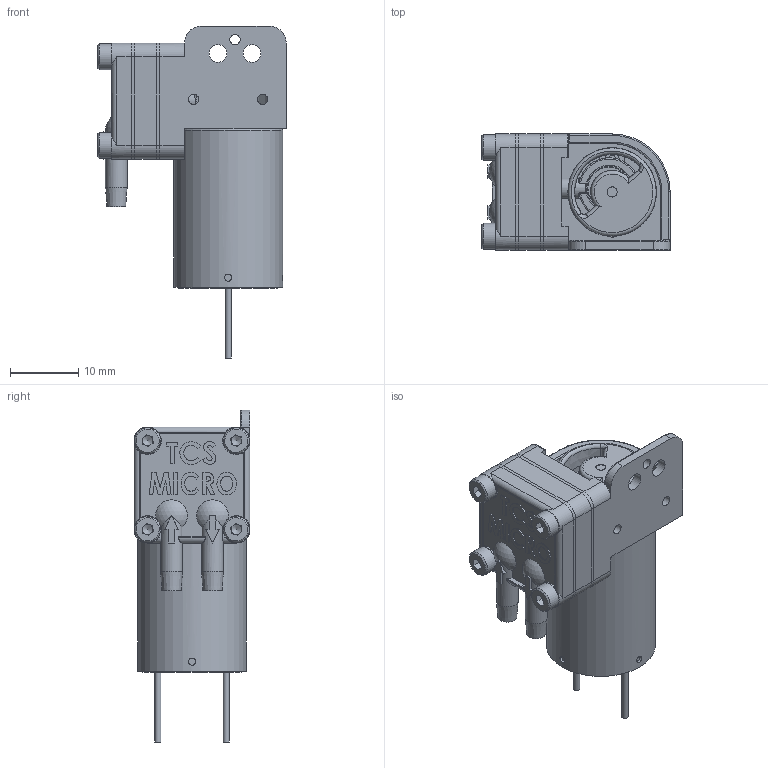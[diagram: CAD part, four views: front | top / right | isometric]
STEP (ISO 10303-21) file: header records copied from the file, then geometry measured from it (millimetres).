
FILE_DESCRIPTION (( 'STEP AP214' ), '1' );
FILE_NAME ('D220S REV 4.STEP', '2022-01-24T14:28:33', ( '' ), ( '' ), 'SwSTEP 2.0', 'SolidWorks 2021', '' );
FILE_SCHEMA (( 'AUTOMOTIVE_DESIGN' ));
Length unit declared in the file: millimetre
Products named in the file (1): D220S REV 4
Bounding box: 27.6 x 17 x 48.66 mm (x, y, z)
Surface area: 5288.6 mm2 (no closed solid volume)
Topology: 0 solids, 18 shells, 342 faces, 999 edges, 665 vertices
Faces by surface type: plane 180, cylinder 82, bspline 48, torus 16, cone 14, sphere 2
Full cylindrical faces by diameter (mm): 0.9 x2, 1.04 x4, 1.45 x1, 1.5 x3, 1.6 x4, 1.7 x2, 2.6 x2, 3 x1, 3.2 x2, 3.8 x4, 6.209 x1, 14.2 x1, 14.6 x1, 15.95 x1
Entity records: 17584 total; most frequent: CARTESIAN_POINT 5328, ORIENTED_EDGE 1663, DIRECTION 1636, EDGE_CURVE 933, VERTEX_POINT 645, AXIS2_PLACEMENT_3D 565, VECTOR 506, LINE 506
